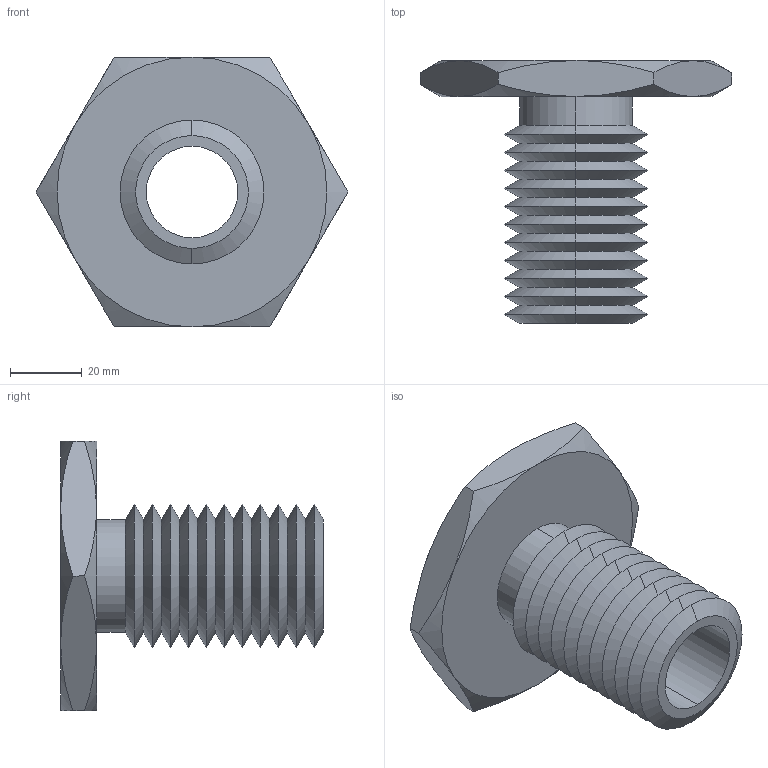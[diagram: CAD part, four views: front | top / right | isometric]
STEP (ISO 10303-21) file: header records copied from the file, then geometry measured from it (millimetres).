
FILE_DESCRIPTION (( 'STEP AP203' ), '1' );
FILE_NAME ('63302.W0042_1,00 UNC-8.step', '2013-12-08T11:15:55', ( 'User' ), ( '' ), 'SwSTEP 2.0', 'SolidWorks 2009', '' );
FILE_SCHEMA (( 'CONFIG_CONTROL_DESIGN' ));
Length unit declared in the file: millimetre
Products named in the file (1): 63302.W0042_1,00 UNC-8
Bounding box: 86.6 x 73 x 75 mm (x, y, z)
Volume: 71774.5 mm3; surface area: 29674.9 mm2
Topology: 1 solids, 1 shells, 71 faces, 146 edges, 78 vertices
Faces by surface type: cone 58, plane 9, cylinder 4
Entity records: 2039 total; most frequent: CARTESIAN_POINT 480, DIRECTION 332, ORIENTED_EDGE 292, EDGE_CURVE 146, AXIS2_PLACEMENT_3D 138, VERTEX_POINT 78, EDGE_LOOP 74, ADVANCED_FACE 71
